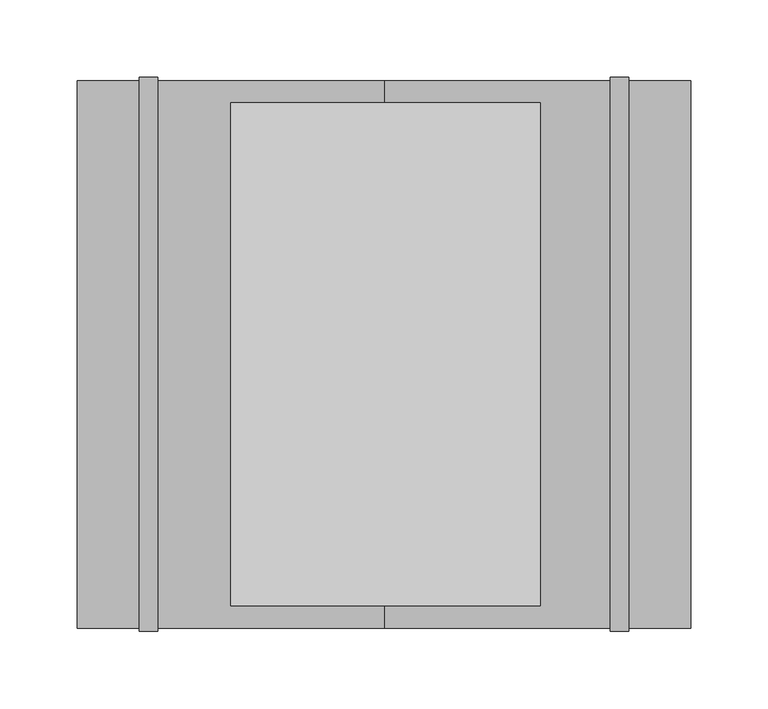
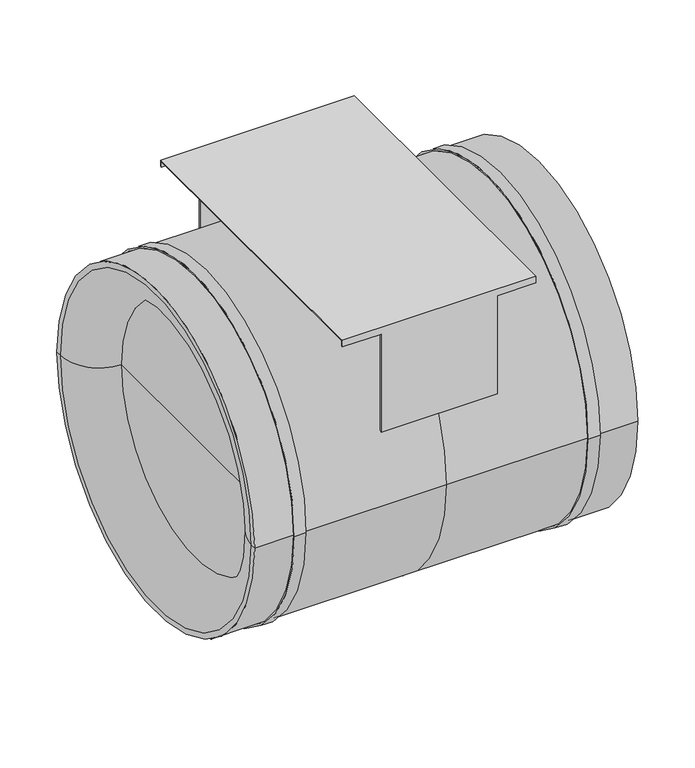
"""IFC4 building model written with IfcOpenShell, lengths in millimetres: unitary equipment geometry, VE-Wentylator-ParaForma-Harmann-JETTEC-Nawiewny : 355/5100F."""

from ifc_helpers import new_model, si_unit, point, frame, frame_2d, origin, place, context, project, spatial, polyline, circle_curve, ellipse_curve, trimmed, segment, composite_curve, outline, extrude, source, transform, mapped, element, save
from ifc_brep_helpers import plane_surface, cylinder_surface, revolved_surface, advanced_brep


def unitary_equipment_95939982(model_context):
    return source(origin(), model_context, "Body", "SolidModel", [
        extrude(outline(composite_curve([segment(polyline([(-45.5, -47.7), (-45.5, 47.7)]), True, "CONTINUOUS"), segment(trimmed(circle_curve(frame_2d((-40.5, 47.7)), 5.0), [point((-45.5, 47.7))], [point((-40.5, 52.7))], False, "CARTESIAN"), True, "CONTINUOUS"), segment(polyline([(-40.5, 52.7), (40.5, 52.7)]), True, "CONTINUOUS"), segment(trimmed(circle_curve(frame_2d((40.5, 47.7)), 5.0), [point((40.5, 52.7))], [point((45.5, 47.7))], False, "CARTESIAN"), True, "CONTINUOUS"), segment(polyline([(45.5, 47.7), (45.5, -47.7)]), True, "CONTINUOUS"), segment(trimmed(circle_curve(frame_2d((40.5, -47.7)), 5.0), [point((45.5, -47.7))], [point((40.5, -52.7))], False, "CARTESIAN"), True, "CONTINUOUS"), segment(polyline([(40.5, -52.7), (-40.5, -52.7)]), True, "CONTINUOUS"), segment(trimmed(circle_curve(frame_2d((-40.5, -47.7)), 5.0), [point((-40.5, -52.7))], [point((-45.5, -47.7))], False, "CARTESIAN"), True, "CONTINUOUS")], self_intersect=False)), frame((0.0, -55.0, 0.0), z_axis=(0.0, 1.0, 0.0), x_axis=(0.0, 0.0, 1.0)), (0.0, 0.0, 1.0), 45.0),
        advanced_brep(
        [(101.0, 162.5, 176.8), (101.0, 162.5, 183.8), (101.0, -162.5, 183.8), (101.0, -162.5, 176.8), (101.0, -161.5, 176.8), (101.0, -161.5, 182.8), (101.0, 161.5, 182.8), (101.0, 161.5, 176.8), (61.0, 161.5, 176.8), (61.0, 162.5, 176.8), (-99.0, 161.5, 182.8), (-99.0, 161.5, 176.8), (-59.0, 161.5, 176.8), (-59.0, 161.5, 71.8213931), (61.0, 161.5, 71.8213931), (-99.0, -161.5, 182.8), (61.0, -161.5, 176.8), (61.0, -161.5, 71.8213931), (-59.0, -161.5, 71.8213931), (-59.0, -161.5, 176.8), (-99.0, -161.5, 176.8), (61.0, -162.5, 176.8), (-99.0, -162.5, 183.8), (-99.0, -162.5, 176.8), (-59.0, -162.5, 176.8), (-59.0, -162.5, 69.5292205), (61.0, -162.5, 69.5292205), (-99.0, 162.5, 183.8), (61.0, 162.5, 69.5292205), (-59.0, 162.5, 69.5292205), (-59.0, 162.5, 176.8), (-99.0, 162.5, 176.8)],
        [
            (0, 1),
            (1, 2),
            (2, 3),
            (3, 4),
            (4, 5),
            (5, 6),
            (6, 7),
            (7, 0),
            (7, 8),
            (8, 9),
            (9, 0),
            (6, 10),
            (10, 11),
            (11, 12),
            (12, 13),
            (13, 14),
            (14, 8),
            (5, 15),
            (15, 10),
            (4, 16),
            (16, 17),
            (17, 18),
            (18, 19),
            (19, 20),
            (20, 15),
            (3, 21),
            (21, 16),
            (2, 22),
            (22, 23),
            (23, 24),
            (24, 25),
            (25, 26),
            (26, 21),
            (1, 27),
            (27, 22),
            (9, 28),
            (28, 29),
            (29, 30),
            (30, 31),
            (31, 27),
            (29, 13, circle_curve(frame((-59.0, 0.0, 0.0), z_axis=(1.0, 0.0, 0.0), x_axis=(0.0, 1.0, 0.0)), 176.75)),
            (12, 30),
            (18, 25, circle_curve(frame((-59.0, 0.0, 0.0), z_axis=(1.0, 0.0, 0.0), x_axis=(0.0, 1.0, 0.0)), 176.75)),
            (24, 19),
            (14, 28, circle_curve(frame((61.0, 0.0, 0.0), z_axis=(-1.0, 0.0, 0.0), x_axis=(0.0, 1.0, 0.0)), 176.75)),
            (26, 17, circle_curve(frame((61.0, 0.0, 0.0), z_axis=(-1.0, 0.0, 0.0), x_axis=(0.0, 1.0, 0.0)), 176.75)),
            (31, 11),
            (20, 23),
        ],
        [
            plane_surface(frame((101.0, 0.0, 0.0), z_axis=(1.0, 0.0, 0.0), x_axis=(0.0, 0.0, 1.0))),
            plane_surface(frame((61.0, 162.5, 176.8), z_axis=(0.0, 0.0, -1.0), x_axis=(1.0, 0.0, 0.0))),
            plane_surface(frame((61.0, 161.5, 176.8), z_axis=(0.0, -1.0, 0.0), x_axis=(1.0, 0.0, 0.0))),
            plane_surface(frame((61.0, -153.1677351, 182.8), z_axis=(0.0, 0.0, -1.0), x_axis=(1.0, 0.0, 0.0))),
            plane_surface(frame((61.0, -161.5, 182.8), z_axis=(0.0, 1.0, 0.0), x_axis=(1.0, 0.0, 0.0))),
            plane_surface(frame((61.0, -161.5, 176.8), z_axis=(0.0, 0.0, -1.0), x_axis=(1.0, 0.0, 0.0))),
            plane_surface(frame((61.0, -162.5, 176.8), z_axis=(0.0, -1.0, 0.0), x_axis=(1.0, 0.0, 0.0))),
            plane_surface(frame((61.0, 152.5, 183.8), z_axis=(0.0, 0.0, 1.0), x_axis=(1.0, 0.0, 0.0))),
            plane_surface(frame((61.0, 162.5, 183.8), z_axis=(0.0, 1.0, 0.0), x_axis=(1.0, 0.0, 0.0))),
            plane_surface(frame((-59.0, 0.0, 0.0), z_axis=(-1.0, 0.0, 0.0), x_axis=(0.0, 0.0, 1.0))),
            plane_surface(frame((61.0, 0.0, 0.0), z_axis=(1.0, 0.0, 0.0), x_axis=(0.0, 0.0, 1.0))),
            revolved_surface(polyline([(-59.0, 176.75, 0.0), (61.0, 176.75, 0.0)]), (-59.0, 0.0, 0.0), (-1.0, 0.0, 0.0)),
            plane_surface(frame((-99.0, 0.0, 0.0), z_axis=(-1.0, 0.0, 0.0), x_axis=(0.0, 0.0, 1.0))),
            plane_surface(frame((-99.0, 162.5, 176.8), z_axis=(0.0, 0.0, -1.0), x_axis=(1.0, 0.0, 0.0))),
            plane_surface(frame((-99.0, -161.5, 176.8), z_axis=(0.0, 0.0, -1.0), x_axis=(1.0, 0.0, 0.0))),
        ],
        [
            (0, [[1, 2, 3, 4, 5, 6, 7, 8]]),
            (1, [[-8, 9, 10, 11]]),
            (2, [[-7, 12, 13, 14, 15, 16, 17, -9]]),
            (3, [[-12, -6, 18, 19]]),
            (4, [[-18, -5, 20, 21, 22, 23, 24, 25]]),
            (5, [[-4, 26, 27, -20]]),
            (6, [[-3, 28, 29, 30, 31, 32, 33, -26]]),
            (7, [[-28, -2, 34, 35]]),
            (8, [[-34, -1, -11, 36, 37, 38, 39, 40]]),
            (9, [[41, -15, 42, -38]]),
            (9, [[43, -31, 44, -23]]),
            (10, [[45, -36, -10, -17]]),
            (10, [[46, -21, -27, -33]]),
            (11, [[-41, -37, -45, -16]]),
            (11, [[-43, -22, -46, -32]]),
            (12, [[47, -13, -19, -25, 48, -29, -35, -40]]),
            (13, [[-47, -39, -42, -14]]),
            (14, [[-48, -24, -44, -30]]),
        ],
    ),
        advanced_brep(
        [(-146.0, 176.8, 0.0), (0.0, 176.8, 0.0), (0.0, -176.8, 0.0), (-146.0, -176.8, 0.0), (-198.0, -176.8, 0.0), (-198.0, 176.8, 0.0), (-158.0, 176.8, 0.0), (-158.0, -176.8, 0.0), (-198.0, -171.0, 0.0), (-198.0, 171.0, 0.0), (-158.0, -131.0, 0.0), (-158.0, 131.0, 0.0), (-158.0, 0.0, 0.0), (198.0, -176.8, 0.0), (198.0, 176.8, 0.0), (198.0, 0.0, 0.0), (158.0, -176.8, 0.0), (158.0, 176.8, 0.0), (146.0, 176.8, 0.0), (146.0, -176.8, 0.0), (-146.0, -178.8, 0.0), (-146.0, 178.8, 0.0), (-158.0, -178.8, 0.0), (-158.0, 178.8, 0.0), (158.0, -178.8, 0.0), (158.0, 178.8, 0.0), (146.0, -178.8, 0.0), (146.0, 178.8, 0.0)],
        [
            (0, 1),
            (1, 2, circle_curve(frame((0.0, 0.0, 0.0), z_axis=(-1.0, 0.0, 0.0), x_axis=(0.0, 1.0, 0.0)), 176.8)),
            (2, 3),
            (3, 0, circle_curve(frame((-146.0, 0.0, 0.0), z_axis=(1.0, 0.0, 0.0), x_axis=(0.0, 1.0, 0.0)), 176.8)),
            (0, 3, circle_curve(frame((-146.0, 0.0, 0.0), z_axis=(1.0, 0.0, 0.0), x_axis=(0.0, 1.0, 0.0)), 176.8)),
            (2, 1, circle_curve(frame((0.0, 0.0, 0.0), z_axis=(-1.0, 0.0, 0.0), x_axis=(0.0, 1.0, 0.0)), 176.8)),
            (4, 5, circle_curve(frame((-198.0, 0.0, 0.0), z_axis=(1.0, 0.0, 0.0), x_axis=(0.0, 1.0, 0.0)), 176.8)),
            (5, 6),
            (6, 7, circle_curve(frame((-158.0, 0.0, 0.0), z_axis=(-1.0, 0.0, 0.0), x_axis=(0.0, 1.0, 0.0)), 176.8)),
            (7, 4),
            (5, 4, circle_curve(frame((-198.0, 0.0, 0.0), z_axis=(1.0, 0.0, 0.0), x_axis=(0.0, 1.0, 0.0)), 176.8)),
            (7, 6, circle_curve(frame((-158.0, 0.0, 0.0), z_axis=(-1.0, 0.0, 0.0), x_axis=(0.0, 1.0, 0.0)), 176.8)),
            (4, 8),
            (8, 9, circle_curve(frame((-198.0, 0.0, 0.0), z_axis=(1.0, 0.0, 0.0), x_axis=(0.0, 1.0, 0.0)), 171.0)),
            (9, 5),
            (9, 8, circle_curve(frame((-198.0, 0.0, 0.0), z_axis=(1.0, 0.0, 0.0), x_axis=(0.0, 1.0, 0.0)), 171.0)),
            (8, 10, circle_curve(frame((-158.0, -171.0, 0.0), z_axis=(0.0, 0.0, -1.0), x_axis=(1.0, 0.0, 0.0)), 40.0)),
            (10, 11, circle_curve(frame((-158.0, 0.0, 0.0), z_axis=(1.0, 0.0, 0.0), x_axis=(0.0, 1.0, 0.0)), 131.0)),
            (11, 9, circle_curve(frame((-158.0, 171.0, 0.0), z_axis=(0.0, 0.0, -1.0), x_axis=(1.0, 0.0, 0.0)), 40.0)),
            (11, 10, circle_curve(frame((-158.0, 0.0, 0.0), z_axis=(1.0, 0.0, 0.0), x_axis=(0.0, 1.0, 0.0)), 131.0)),
            (10, 12),
            (12, 11),
            (13, 14, circle_curve(frame((198.0, 0.0, 0.0), z_axis=(1.0, 0.0, 0.0), x_axis=(0.0, 1.0, 0.0)), 176.8)),
            (14, 15),
            (15, 13),
            (14, 13, circle_curve(frame((198.0, 0.0, 0.0), z_axis=(1.0, 0.0, 0.0), x_axis=(0.0, 1.0, 0.0)), 176.8)),
            (13, 16),
            (16, 17, circle_curve(frame((158.0, 0.0, 0.0), z_axis=(1.0, 0.0, 0.0), x_axis=(0.0, 1.0, 0.0)), 176.8)),
            (17, 14),
            (17, 16, circle_curve(frame((158.0, 0.0, 0.0), z_axis=(1.0, 0.0, 0.0), x_axis=(0.0, 1.0, 0.0)), 176.8)),
            (1, 18),
            (18, 19, circle_curve(frame((146.0, 0.0, 0.0), z_axis=(-1.0, 0.0, 0.0), x_axis=(0.0, 1.0, 0.0)), 176.8)),
            (19, 2),
            (19, 18, circle_curve(frame((146.0, 0.0, 0.0), z_axis=(-1.0, 0.0, 0.0), x_axis=(0.0, 1.0, 0.0)), 176.8)),
            (20, 21, circle_curve(frame((-146.0, 0.0, 0.0), z_axis=(1.0, 0.0, 0.0), x_axis=(0.0, 1.0, 0.0)), 178.8)),
            (21, 0),
            (3, 20),
            (21, 20, circle_curve(frame((-146.0, 0.0, 0.0), z_axis=(1.0, 0.0, 0.0), x_axis=(0.0, 1.0, 0.0)), 178.8)),
            (20, 22),
            (22, 23, circle_curve(frame((-158.0, 0.0, 0.0), z_axis=(1.0, 0.0, 0.0), x_axis=(0.0, 1.0, 0.0)), 178.8)),
            (23, 21),
            (23, 22, circle_curve(frame((-158.0, 0.0, 0.0), z_axis=(1.0, 0.0, 0.0), x_axis=(0.0, 1.0, 0.0)), 178.8)),
            (22, 7),
            (6, 23),
            (24, 25, circle_curve(frame((158.0, 0.0, 0.0), z_axis=(1.0, 0.0, 0.0), x_axis=(0.0, 1.0, 0.0)), 178.8)),
            (25, 17),
            (16, 24),
            (25, 24, circle_curve(frame((158.0, 0.0, 0.0), z_axis=(1.0, 0.0, 0.0), x_axis=(0.0, 1.0, 0.0)), 178.8)),
            (24, 26),
            (26, 27, circle_curve(frame((146.0, 0.0, 0.0), z_axis=(1.0, 0.0, 0.0), x_axis=(0.0, 1.0, 0.0)), 178.8)),
            (27, 25),
            (27, 26, circle_curve(frame((146.0, 0.0, 0.0), z_axis=(1.0, 0.0, 0.0), x_axis=(0.0, 1.0, 0.0)), 178.8)),
            (26, 19),
            (18, 27),
        ],
        [
            cylinder_surface(frame((-158.0, 0.0, 0.0), z_axis=(-1.0, 0.0, 0.0), x_axis=(0.0, 1.0, 0.0)), 176.8),
            plane_surface(frame((-198.0, 0.0, 0.0), z_axis=(-1.0, 0.0, 0.0), x_axis=(0.0, 1.0, 0.0))),
            revolved_surface(trimmed(ellipse_curve(frame((-158.0, 171.0, 0.0), z_axis=(0.0, 0.0, 1.0), x_axis=(1.0, 0.0, 0.0)), 40.0, 40.0), [point((-198.0, 171.0, 0.0))], [point((-158.0, 131.0, 0.0))], True, "CARTESIAN"), (-158.0, 0.0, 0.0), (-1.0, 0.0, 0.0)),
            plane_surface(frame((-158.0, 0.0, 0.0), z_axis=(-1.0, 0.0, 0.0), x_axis=(0.0, 1.0, 0.0))),
            plane_surface(frame((198.0, 0.0, 0.0), z_axis=(1.0, 0.0, 0.0), x_axis=(0.0, 1.0, 0.0))),
            cylinder_surface(frame((0.0, 0.0, 0.0), z_axis=(-1.0, 0.0, 0.0), x_axis=(0.0, 1.0, 0.0)), 176.8),
            plane_surface(frame((-146.0, 0.0, 0.0), z_axis=(1.0, 0.0, 0.0), x_axis=(0.0, 1.0, 0.0))),
            cylinder_surface(frame((-158.0, 0.0, 0.0), z_axis=(-1.0, 0.0, 0.0), x_axis=(0.0, 1.0, 0.0)), 178.8),
            plane_surface(frame((158.0, 0.0, 0.0), z_axis=(1.0, 0.0, 0.0), x_axis=(0.0, 1.0, 0.0))),
            plane_surface(frame((146.0, 0.0, 0.0), z_axis=(-1.0, 0.0, 0.0), x_axis=(0.0, 1.0, 0.0))),
        ],
        [
            (0, [[1, 2, 3, 4]]),
            (0, [[-1, 5, -3, 6]]),
            (0, [[7, 8, 9, 10]]),
            (0, [[-8, 11, -10, 12]]),
            (1, [[-7, 13, 14, 15]]),
            (1, [[-11, -15, 16, -13]]),
            (2, [[-14, 17, 18, 19]]),
            (2, [[-16, -19, 20, -17]]),
            (3, [[-18, 21, 22]]),
            (3, [[-20, -22, -21]]),
            (4, [[23, 24, 25]]),
            (4, [[-24, 26, -25]]),
            (5, [[-23, 27, 28, 29]]),
            (5, [[-26, -29, 30, -27]]),
            (5, [[31, 32, 33, -2]]),
            (5, [[-31, -6, -33, 34]]),
            (6, [[35, 36, -4, 37]]),
            (6, [[38, -37, -5, -36]]),
            (7, [[-35, 39, 40, 41]]),
            (7, [[-38, -41, 42, -39]]),
            (3, [[-40, 43, -9, 44]]),
            (3, [[-42, -44, -12, -43]]),
            (8, [[45, 46, -28, 47]]),
            (8, [[48, -47, -30, -46]]),
            (7, [[-45, 49, 50, 51]]),
            (7, [[-48, -51, 52, -49]]),
            (9, [[-50, 53, -32, 54]]),
            (9, [[-52, -54, -34, -53]]),
        ],
    ),
    ])


if __name__ == "__main__":
    model = new_model("IFC4")
    model_context = context("Model", 3, world=origin())
    ifc_project = project(units=[si_unit("LENGTHUNIT", "METRE", prefix="MILLI")], contexts=[model_context])
    site = spatial("IfcSite", under=ifc_project)
    building = spatial("IfcBuilding", under=site)
    placement = place(None, origin())
    unitary_equipment_shape = unitary_equipment_95939982(model_context)
    element("IfcUnitaryEquipment", 1, ObjectType="VE-Wentylator-ParaForma-Harmann-JETTEC-Nawiewny : 355/5100F", at=placement, inside=building, context=model_context, shape_type="MappedRepresentation", body=[
        mapped(unitary_equipment_shape, transform((0.0, 0.0, 0.0), x_axis=(1.0, 0.0, 0.0), y_axis=(0.0, 1.0, 0.0), z_axis=(0.0, 0.0, 1.0))),
    ])
    save(model, "model.ifc")
